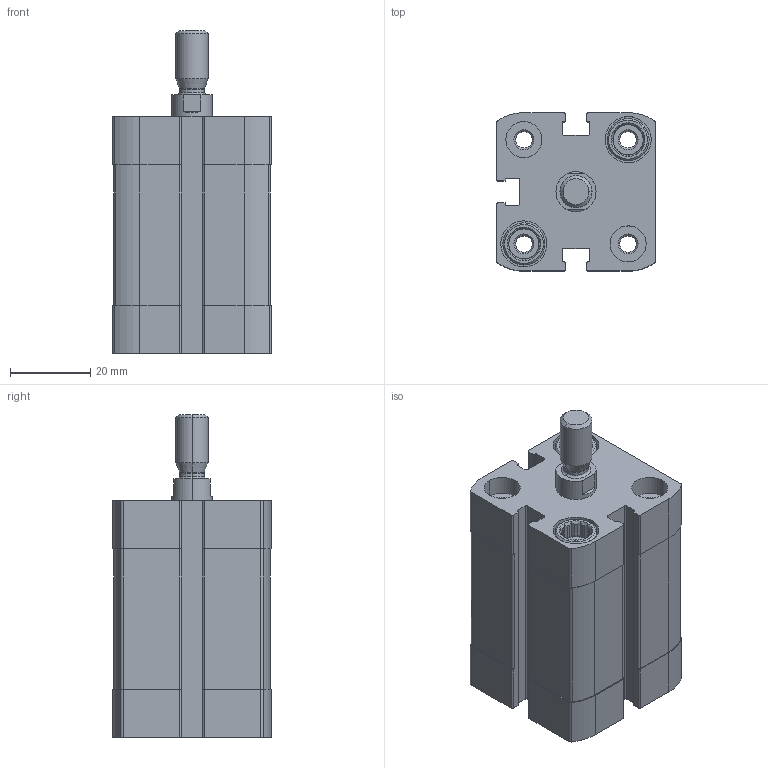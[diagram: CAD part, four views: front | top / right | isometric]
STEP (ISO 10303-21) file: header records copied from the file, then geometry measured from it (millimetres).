
FILE_DESCRIPTION (( 'STEP AP203' ), '1' );
FILE_NAME ('CCN25-20M.STEP', '2017-03-28T17:57:51', ( '' ), ( '' ), 'SwSTEP 2.0', 'SolidWorks 2016', '' );
FILE_SCHEMA (( 'CONFIG_CONTROL_DESIGN' ));
Length unit declared in the file: millimetre
Products named in the file (3): CCN-20---(Z); CCN-20-_(KS); CCN25-20M
Assembly tree (2 placements, depth 2):
  CCN25-20M
    CCN-20---(Z)
    CCN-20-_(KS)
Bounding box: 39.5 x 39.5 x 80.5 mm (x, y, z)
Volume: 70139 mm3; surface area: 26788.5 mm2
Topology: 2 solids, 2 shells, 409 faces, 1080 edges, 706 vertices
Faces by surface type: plane 231, cylinder 134, cone 40, bspline 4
Entity records: 13193 total; most frequent: CARTESIAN_POINT 2560, DIRECTION 2214, ORIENTED_EDGE 2160, EDGE_CURVE 1080, AXIS2_PLACEMENT_3D 824, VERTEX_POINT 706, LINE 566, VECTOR 566
